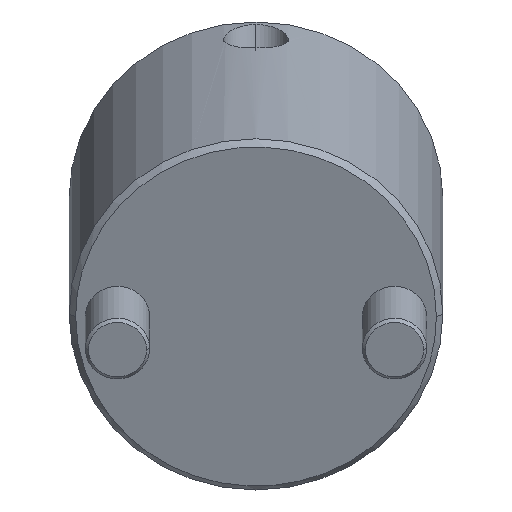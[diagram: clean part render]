
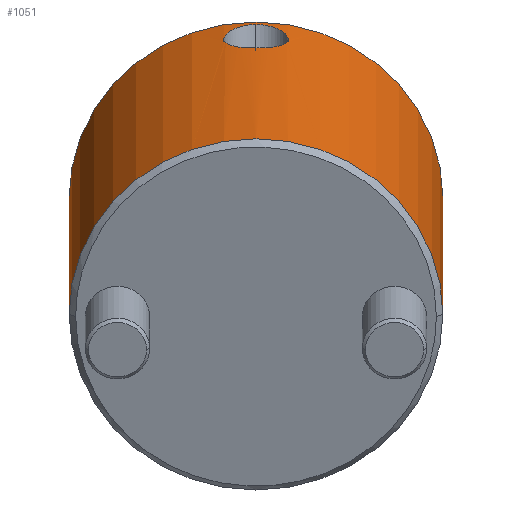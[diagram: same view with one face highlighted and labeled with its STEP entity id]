
A CAD part, front view. The second image highlights one B-rep face of the part: STEP entity #1051.
In plain terms, the highlighted cylindrical face has radius 29 mm (diameter 58 mm), a partial arc.
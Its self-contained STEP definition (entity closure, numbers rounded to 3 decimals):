
#781=CARTESIAN_POINT('Vertex',(0.,29.,1.)) ;
#784=CARTESIAN_POINT('Axis2P3D Location',(0.,0.,1.)) ;
#788=CARTESIAN_POINT('Vertex',(0.,-29.,1.)) ;
#940=CARTESIAN_POINT('Axis2P3D Location',(0.,0.,-2.75)) ;
#945=CARTESIAN_POINT('Line Origine',(0.,29.,-2.75)) ;
#949=CARTESIAN_POINT('Vertex',(0.,29.,54.)) ;
#952=CARTESIAN_POINT('Axis2P3D Location',(0.,0.,54.)) ;
#956=CARTESIAN_POINT('Vertex',(0.,-29.,54.)) ;
#959=CARTESIAN_POINT('Line Origine',(0.,-29.,-2.75)) ;
#971=CARTESIAN_POINT('Control Point',(29.,0.,52.84)) ;
#972=CARTESIAN_POINT('Control Point',(29.,0.41,52.84)) ;
#973=CARTESIAN_POINT('Control Point',(28.993,0.818,52.794)) ;
#974=CARTESIAN_POINT('Control Point',(28.978,1.227,52.698)) ;
#975=CARTESIAN_POINT('Control Point',(28.941,1.922,52.449)) ;
#976=CARTESIAN_POINT('Control Point',(28.888,2.571,52.061)) ;
#977=CARTESIAN_POINT('Control Point',(28.862,2.839,51.869)) ;
#978=CARTESIAN_POINT('Control Point',(28.799,3.437,51.363)) ;
#979=CARTESIAN_POINT('Control Point',(28.732,3.948,50.737)) ;
#980=CARTESIAN_POINT('Control Point',(28.695,4.202,50.348)) ;
#981=CARTESIAN_POINT('Control Point',(28.645,4.527,49.719)) ;
#982=CARTESIAN_POINT('Control Point',(28.608,4.752,49.055)) ;
#983=CARTESIAN_POINT('Control Point',(28.597,4.816,48.831)) ;
#984=CARTESIAN_POINT('Control Point',(28.575,4.947,48.265)) ;
#985=CARTESIAN_POINT('Control Point',(28.565,5.007,47.682)) ;
#986=CARTESIAN_POINT('Control Point',(28.563,5.016,47.333)) ;
#987=CARTESIAN_POINT('Control Point',(28.569,4.98,46.642)) ;
#988=CARTESIAN_POINT('Control Point',(28.593,4.841,45.975)) ;
#989=CARTESIAN_POINT('Control Point',(28.609,4.747,45.653)) ;
#990=CARTESIAN_POINT('Control Point',(28.642,4.548,45.132)) ;
#991=CARTESIAN_POINT('Control Point',(28.682,4.285,44.647)) ;
#992=CARTESIAN_POINT('Control Point',(28.699,4.17,44.461)) ;
#993=CARTESIAN_POINT('Control Point',(28.735,3.921,44.101)) ;
#994=CARTESIAN_POINT('Control Point',(28.772,3.633,43.771)) ;
#995=CARTESIAN_POINT('Control Point',(28.791,3.481,43.613)) ;
#996=CARTESIAN_POINT('Control Point',(28.838,3.081,43.245)) ;
#997=CARTESIAN_POINT('Control Point',(28.882,2.635,42.935)) ;
#998=CARTESIAN_POINT('Control Point',(28.907,2.351,42.77)) ;
#999=CARTESIAN_POINT('Control Point',(28.953,1.732,42.478)) ;
#1000=CARTESIAN_POINT('Control Point',(28.983,1.071,42.295)) ;
#1001=CARTESIAN_POINT('Control Point',(28.994,0.716,42.231)) ;
#1002=CARTESIAN_POINT('Control Point',(29.,0.359,42.199)) ;
#1003=CARTESIAN_POINT('Control Point',(29.,0.,42.199)) ;
#1004=CARTESIAN_POINT('Vertex',(29.,0.,52.84)) ;
#1006=CARTESIAN_POINT('Vertex',(29.,0.,42.199)) ;
#1010=CARTESIAN_POINT('Control Point',(29.,0.,42.199)) ;
#1011=CARTESIAN_POINT('Control Point',(29.,-0.436,42.199)) ;
#1012=CARTESIAN_POINT('Control Point',(28.992,-0.867,42.246)) ;
#1013=CARTESIAN_POINT('Control Point',(28.976,-1.295,42.34)) ;
#1014=CARTESIAN_POINT('Control Point',(28.941,-1.914,42.55)) ;
#1015=CARTESIAN_POINT('Control Point',(28.894,-2.488,42.857)) ;
#1016=CARTESIAN_POINT('Control Point',(28.877,-2.675,42.971)) ;
#1017=CARTESIAN_POINT('Control Point',(28.842,-3.033,43.216)) ;
#1018=CARTESIAN_POINT('Control Point',(28.805,-3.362,43.5)) ;
#1019=CARTESIAN_POINT('Control Point',(28.786,-3.519,43.651)) ;
#1020=CARTESIAN_POINT('Control Point',(28.749,-3.816,43.971)) ;
#1021=CARTESIAN_POINT('Control Point',(28.712,-4.078,44.322)) ;
#1022=CARTESIAN_POINT('Control Point',(28.695,-4.199,44.506)) ;
#1023=CARTESIAN_POINT('Control Point',(28.662,-4.421,44.885)) ;
#1024=CARTESIAN_POINT('Control Point',(28.633,-4.603,45.289)) ;
#1025=CARTESIAN_POINT('Control Point',(28.619,-4.683,45.497)) ;
#1026=CARTESIAN_POINT('Control Point',(28.596,-4.822,45.92)) ;
#1027=CARTESIAN_POINT('Control Point',(28.58,-4.917,46.36)) ;
#1028=CARTESIAN_POINT('Control Point',(28.574,-4.953,46.587)) ;
#1029=CARTESIAN_POINT('Control Point',(28.561,-5.028,47.275)) ;
#1030=CARTESIAN_POINT('Control Point',(28.566,-4.996,47.975)) ;
#1031=CARTESIAN_POINT('Control Point',(28.579,-4.925,48.442)) ;
#1032=CARTESIAN_POINT('Control Point',(28.618,-4.698,49.344)) ;
#1033=CARTESIAN_POINT('Control Point',(28.682,-4.293,50.19)) ;
#1034=CARTESIAN_POINT('Control Point',(28.718,-4.047,50.593)) ;
#1035=CARTESIAN_POINT('Control Point',(28.775,-3.624,51.146)) ;
#1036=CARTESIAN_POINT('Control Point',(28.831,-3.134,51.614)) ;
#1037=CARTESIAN_POINT('Control Point',(28.849,-2.966,51.757)) ;
#1038=CARTESIAN_POINT('Control Point',(28.883,-2.617,52.025)) ;
#1039=CARTESIAN_POINT('Control Point',(28.914,-2.245,52.25)) ;
#1040=CARTESIAN_POINT('Control Point',(28.928,-2.056,52.352)) ;
#1041=CARTESIAN_POINT('Control Point',(28.962,-1.546,52.588)) ;
#1042=CARTESIAN_POINT('Control Point',(28.985,-1.013,52.743)) ;
#1043=CARTESIAN_POINT('Control Point',(28.995,-0.674,52.809)) ;
#1044=CARTESIAN_POINT('Control Point',(29.,-0.337,52.84)) ;
#1045=CARTESIAN_POINT('Control Point',(29.,0.,52.84)) ;
#785=DIRECTION('Axis2P3D Direction',(0.,0.,1.)) ;
#941=DIRECTION('Axis2P3D Direction',(0.,-0.,1.)) ;
#942=DIRECTION('Axis2P3D XDirection',(0.,-1.,0.)) ;
#946=DIRECTION('Vector Direction',(0.,0.,1.)) ;
#953=DIRECTION('Axis2P3D Direction',(0.,-0.,1.)) ;
#960=DIRECTION('Vector Direction',(0.,0.,1.)) ;
#786=AXIS2_PLACEMENT_3D('Circle Axis2P3D',#784,#785,$) ;
#943=AXIS2_PLACEMENT_3D('Cylinder Axis2P3D',#940,#941,#942) ;
#954=AXIS2_PLACEMENT_3D('Circle Axis2P3D',#952,#953,$) ;
#965=ORIENTED_EDGE('',*,*,#951,.F.) ;
#966=ORIENTED_EDGE('',*,*,#958,.T.) ;
#967=ORIENTED_EDGE('',*,*,#963,.T.) ;
#968=ORIENTED_EDGE('',*,*,#790,.F.) ;
#1048=ORIENTED_EDGE('',*,*,#1008,.T.) ;
#1049=ORIENTED_EDGE('',*,*,#1046,.T.) ;
#1050=FACE_BOUND('',#1047,.T.) ;
#947=VECTOR('Line Direction',#946,1.) ;
#961=VECTOR('Line Direction',#960,1.) ;
#1051=ADVANCED_FACE('MANIFOLD_SOLID_BREP #1148',(#969,#1050),#944,.T.) ;
#970=B_SPLINE_CURVE_WITH_KNOTS('',5,(#971,#972,#973,#974,#975,#976,#977,#978,#979,#980,#981,#982,#983,#984,#985,#986,#987,#988,#989,#990,#991,#992,#993,#994,#995,#996,#997,#998,#999,#1000,#1001,#1002,#1003),.UNSPECIFIED.,.F.,.U.,(6,3,3,3,3,3,3,3,3,3,6),(0.,3.082,5.432,8.625,10.233,12.595,14.944,16.512,18.076,20.419,22.998),.UNSPECIFIED.) ;
#1009=B_SPLINE_CURVE_WITH_KNOTS('',5,(#1010,#1011,#1012,#1013,#1014,#1015,#1016,#1017,#1018,#1019,#1020,#1021,#1022,#1023,#1024,#1025,#1026,#1027,#1028,#1029,#1030,#1031,#1032,#1033,#1034,#1035,#1036,#1037,#1038,#1039,#1040,#1041,#1042,#1043,#1044,#1045),.UNSPECIFIED.,.F.,.U.,(6,3,3,3,3,3,3,3,3,3,3,6),(0.,3.127,4.689,6.255,7.819,9.384,10.947,14.13,17.316,18.889,20.449,22.99),.UNSPECIFIED.) ;
#787=CIRCLE('generated circle',#786,29.) ;
#955=CIRCLE('generated circle',#954,29.) ;
#944=CYLINDRICAL_SURFACE('generated cylinder',#943,29.) ;
#790=EDGE_CURVE('',#782,#789,#787,.F.) ;
#951=EDGE_CURVE('',#950,#782,#948,.F.) ;
#958=EDGE_CURVE('',#950,#957,#955,.F.) ;
#963=EDGE_CURVE('',#957,#789,#962,.F.) ;
#1008=EDGE_CURVE('',#1005,#1007,#970,.T.) ;
#1046=EDGE_CURVE('',#1007,#1005,#1009,.T.) ;
#964=EDGE_LOOP('',(#965,#966,#967,#968)) ;
#1047=EDGE_LOOP('',(#1048,#1049)) ;
#969=FACE_OUTER_BOUND('',#964,.T.) ;
#948=LINE('Line',#945,#947) ;
#962=LINE('Line',#959,#961) ;
#782=VERTEX_POINT('',#781) ;
#789=VERTEX_POINT('',#788) ;
#950=VERTEX_POINT('',#949) ;
#957=VERTEX_POINT('',#956) ;
#1005=VERTEX_POINT('',#1004) ;
#1007=VERTEX_POINT('',#1006) ;
